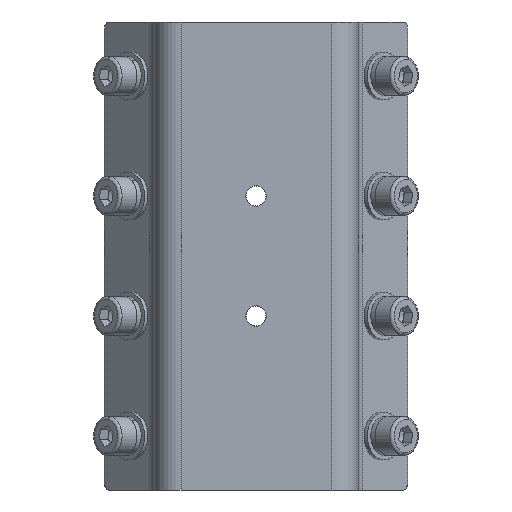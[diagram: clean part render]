
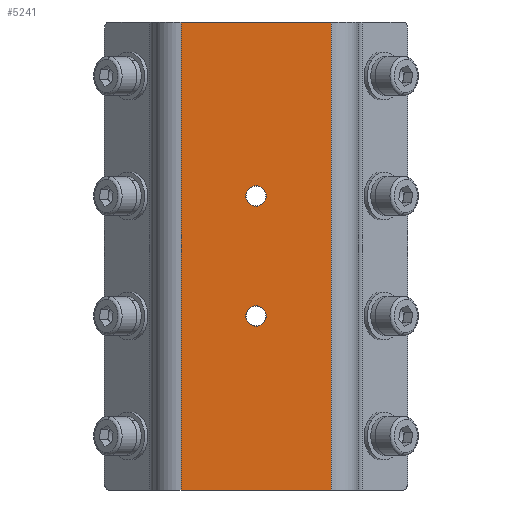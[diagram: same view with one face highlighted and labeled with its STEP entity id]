
A CAD part, front view. The second image highlights one B-rep face of the part: STEP entity #5241.
In plain terms, the highlighted planar face has unit normal (0, -1, 0).
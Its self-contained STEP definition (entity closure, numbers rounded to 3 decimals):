
#109 = CARTESIAN_POINT ( 'NONE',  ( 253.294, 209.985, 54.6 ) ) ;
#131 = CARTESIAN_POINT ( 'NONE',  ( 253.294, 209.985, 61.4 ) ) ;
#149 = CARTESIAN_POINT ( 'NONE',  ( 228.294, 209.985, 0. ) ) ;
#179 = DIRECTION ( 'NONE',  ( 0., 0., -1. ) ) ;
#180 = DIRECTION ( 'NONE',  ( 0., -1., 0. ) ) ;
#182 = CARTESIAN_POINT ( 'NONE',  ( 253.294, 209.985, 98. ) ) ;
#192 = DIRECTION ( 'NONE',  ( 0., 0., -1. ) ) ;
#193 = DIRECTION ( 'NONE',  ( 0., -1., 0. ) ) ;
#194 = CARTESIAN_POINT ( 'NONE',  ( 253.294, 209.985, 58. ) ) ;
#531 = EDGE_LOOP ( 'NONE', ( #4847, #4846 ) ) ;
#536 = EDGE_LOOP ( 'NONE', ( #4843, #4842, #4841, #4840 ) ) ;
#542 = EDGE_LOOP ( 'NONE', ( #4845, #4844 ) ) ;
#960 = EDGE_CURVE ( 'NONE', #1040, #1054, #2848, .T. ) ;
#964 = EDGE_CURVE ( 'NONE', #4876, #4887, #2842, .T. ) ;
#1030 = VERTEX_POINT ( 'NONE', #149 ) ;
#1040 = VERTEX_POINT ( 'NONE', #131 ) ;
#1054 = VERTEX_POINT ( 'NONE', #109 ) ;
#1229 = VERTEX_POINT ( 'NONE', #1722 ) ;
#1254 = VERTEX_POINT ( 'NONE', #1652 ) ;
#1256 = VERTEX_POINT ( 'NONE', #1647 ) ;
#1647 = CARTESIAN_POINT ( 'NONE',  ( 278.294, 209.985, 0. ) ) ;
#1652 = CARTESIAN_POINT ( 'NONE',  ( 278.294, 209.985, 156. ) ) ;
#1722 = CARTESIAN_POINT ( 'NONE',  ( 228.294, 209.985, 156. ) ) ;
#2108 = AXIS2_PLACEMENT_3D ( 'NONE', #5428, #3498, #5422 ) ;
#2141 = AXIS2_PLACEMENT_3D ( 'NONE', #5084, #5083, #5082 ) ;
#2142 = AXIS2_PLACEMENT_3D ( 'NONE', #5090, #5088, #5087 ) ;
#2577 = CARTESIAN_POINT ( 'NONE',  ( 253.294, 209.985, 101.4 ) ) ;
#2842 = CIRCLE ( 'NONE', #4212, 3.4 ) ;
#2848 = CIRCLE ( 'NONE', #4214, 3.4 ) ;
#3498 = DIRECTION ( 'NONE',  ( 0., 1., 0. ) ) ;
#3681 = EDGE_CURVE ( 'NONE', #1229, #1030, #3736, .T. ) ;
#3683 = EDGE_CURVE ( 'NONE', #1054, #1040, #3739, .T. ) ;
#3684 = EDGE_CURVE ( 'NONE', #4887, #4876, #3740, .T. ) ;
#3685 = EDGE_CURVE ( 'NONE', #1030, #1256, #3741, .T. ) ;
#3686 = EDGE_CURVE ( 'NONE', #1254, #1256, #3742, .T. ) ;
#3687 = EDGE_CURVE ( 'NONE', #1229, #1254, #3737, .T. ) ;
#3736 = LINE ( 'NONE', #5106, #3738 ) ;
#3737 = LINE ( 'NONE', #5085, #3747 ) ;
#3738 = VECTOR ( 'NONE', #5115, 1000. ) ;
#3739 = CIRCLE ( 'NONE', #2142, 3.4 ) ;
#3740 = CIRCLE ( 'NONE', #2141, 3.4 ) ;
#3741 = LINE ( 'NONE', #5093, #3743 ) ;
#3742 = LINE ( 'NONE', #5081, #3745 ) ;
#3743 = VECTOR ( 'NONE', #5092, 1000. ) ;
#3745 = VECTOR ( 'NONE', #5079, 1000. ) ;
#3747 = VECTOR ( 'NONE', #5078, 1000. ) ;
#3832 = FACE_BOUND ( 'NONE', #531, .T. ) ;
#3836 = FACE_OUTER_BOUND ( 'NONE', #536, .T. ) ;
#3840 = FACE_BOUND ( 'NONE', #542, .T. ) ;
#4212 = AXIS2_PLACEMENT_3D ( 'NONE', #182, #180, #179 ) ;
#4214 = AXIS2_PLACEMENT_3D ( 'NONE', #194, #193, #192 ) ;
#4840 = ORIENTED_EDGE ( 'NONE', *, *, #3681, .T. ) ;
#4841 = ORIENTED_EDGE ( 'NONE', *, *, #3687, .F. ) ;
#4842 = ORIENTED_EDGE ( 'NONE', *, *, #3686, .F. ) ;
#4843 = ORIENTED_EDGE ( 'NONE', *, *, #3685, .T. ) ;
#4844 = ORIENTED_EDGE ( 'NONE', *, *, #964, .F. ) ;
#4845 = ORIENTED_EDGE ( 'NONE', *, *, #3684, .F. ) ;
#4846 = ORIENTED_EDGE ( 'NONE', *, *, #960, .F. ) ;
#4847 = ORIENTED_EDGE ( 'NONE', *, *, #3683, .F. ) ;
#4876 = VERTEX_POINT ( 'NONE', #2577 ) ;
#4887 = VERTEX_POINT ( 'NONE', #5388 ) ;
#5078 = DIRECTION ( 'NONE',  ( 1., 0., 0. ) ) ;
#5079 = DIRECTION ( 'NONE',  ( 0., 0., -1. ) ) ;
#5081 = CARTESIAN_POINT ( 'NONE',  ( 278.294, 209.985, 156. ) ) ;
#5082 = DIRECTION ( 'NONE',  ( 0., 0., -1. ) ) ;
#5083 = DIRECTION ( 'NONE',  ( 0., -1., 0. ) ) ;
#5084 = CARTESIAN_POINT ( 'NONE',  ( 253.294, 209.985, 98. ) ) ;
#5085 = CARTESIAN_POINT ( 'NONE',  ( 278.294, 209.985, 156. ) ) ;
#5087 = DIRECTION ( 'NONE',  ( 0., 0., -1. ) ) ;
#5088 = DIRECTION ( 'NONE',  ( 0., -1., 0. ) ) ;
#5090 = CARTESIAN_POINT ( 'NONE',  ( 253.294, 209.985, 58. ) ) ;
#5092 = DIRECTION ( 'NONE',  ( 1., 0., 0. ) ) ;
#5093 = CARTESIAN_POINT ( 'NONE',  ( 278.294, 209.985, 0. ) ) ;
#5106 = CARTESIAN_POINT ( 'NONE',  ( 228.294, 209.985, 156. ) ) ;
#5115 = DIRECTION ( 'NONE',  ( 0., 0., -1. ) ) ;
#5241 = ADVANCED_FACE ( 'NONE', ( #3832, #3840, #3836 ), #5425, .F. ) ;
#5388 = CARTESIAN_POINT ( 'NONE',  ( 253.294, 209.985, 94.6 ) ) ;
#5422 = DIRECTION ( 'NONE',  ( 0., 0., 1. ) ) ;
#5425 = PLANE ( 'NONE',  #2108 ) ;
#5428 = CARTESIAN_POINT ( 'NONE',  ( 278.294, 209.985, 156. ) ) ;
